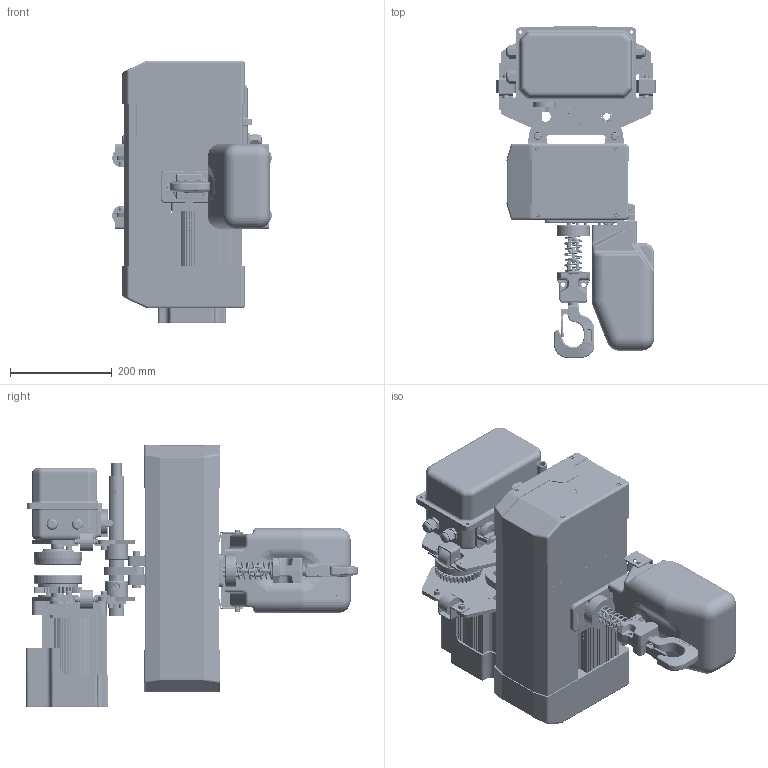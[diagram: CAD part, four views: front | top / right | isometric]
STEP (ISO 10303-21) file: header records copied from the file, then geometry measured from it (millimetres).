
FILE_DESCRIPTION(/* description */ ('CAx-IF Rec.Pracs.---Representation and Presentation of Product Manufacturing Information (PMI)---4.0---2014-10-13','CAx-IF Rec.Pracs.---3D Tessellated Geometry---0.4---2014-09-14','2;1'),/* implementation_level */ '2;1');
FILE_NAME(/* name */ 'YJ 01-01 运行式',/* time_stamp */ '2026-06-03T10:38:40+08:00',/* author */ (''),/* organization */ (''),/* preprocessor_version */ 'ST-DEVELOPER v16.7',/* originating_system */ $,/* authorisation */ $);
FILE_SCHEMA (('AP242_MANAGED_MODEL_BASED_3D_ENGINEERING_MIM_LF { 1 0 10303 442 20130219 1 4 }'));
Products named in the file (1): YJ 01-01 运行式
Bounding box: 312.9 x 651.11 x 515.5 mm (x, y, z)
Volume: 18100496.5 mm3; surface area: 2344741.3 mm2
Topology: 36 solids, 54 shells, 6578 faces, 16344 edges, 9974 vertices
Faces by surface type: plane 2404, cylinder 1857, bspline 1406, torus 460, cone 323, sphere 128
Full cylindrical faces by diameter (mm): 1.467 x1, 1.707 x1, 2.14 x1, 2.5 x2, 3.4 x2, 4 x2, 4.2 x4, 4.5 x4, 4.826 x4, 5 x4, 5.326 x2, 5.795 x6, 5.8 x2, 6 x6, 6.2 x2, 6.3 x4, 6.4 x4, 6.5 x2, 6.6 x8, 6.8 x8, 7 x2, 7.46 x1, 7.76 x12, 8.5 x4, 8.6 x4, 8.9 x8, 9 x6, 9.045 x2, 9.732 x12, 9.9 x8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
Entity records: 246752 total; most frequent: CARTESIAN_POINT 84012, ORIENTED_EDGE 30930, DIRECTION 27258, EDGE_CURVE 15465, AXIS2_PLACEMENT_3D 9870, VERTEX_POINT 9762, FACE_BOUND 7603, EDGE_LOOP 7581
